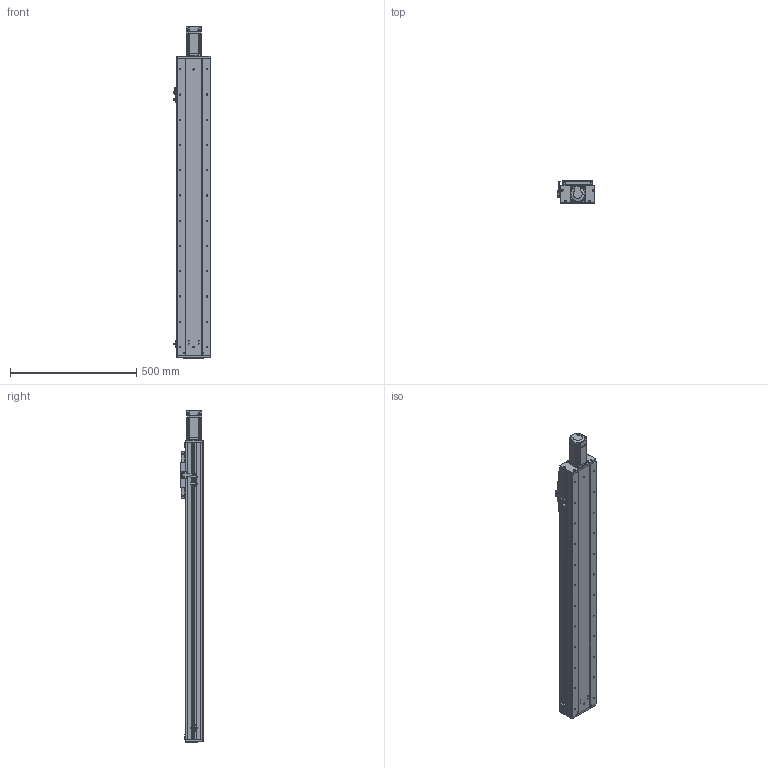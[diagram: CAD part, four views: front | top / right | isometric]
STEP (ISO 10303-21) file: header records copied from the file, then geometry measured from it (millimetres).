
FILE_DESCRIPTION (( 'STEP AP203' ), '1' );
FILE_NAME ('RY140F-L2020-300-MK.SLDASM_900.step', '2021-03-02T06:24:19', ( '盈信电脑' ), ( '东莞市道滘镇水果街19号' ), 'SwSTEP 2.0', 'SolidWorks 2012', '' );
FILE_SCHEMA (( 'CONFIG_CONTROL_DESIGN' ));
Length unit declared in the file: millimetre
Products named in the file (18): RY140F-L2020-300-MK.SLDASM_900; RY140F-詩湍揤え; 侐源滅袉蝶; RY140F-672覜茼んえ; 滅袉蝶18-10; RY140F-后盖板(铝件）; 侂狟400W侜督萇儂; 15; 覜茼ん672; RY140F-直连型材铝滑块(16丝杆); RY100F-詩湍揤踡謫; RY140F-直连前盖板(铝件）; RY140F-詩湍幗謫粣; RY140F-300-MK眻蟀詩湍_900; RY140F-300-MK眻蟀倰第奻裔啣_900; RY140F-滅鳥奻裔; RY140F-直连型材铝滑块连接座; RY140F-300-MK眻蟀倰第菁釱_900
Assembly tree (22 placements, depth 3):
  RY140F-L2020-300-MK.SLDASM_900
    RY140F-300-MK眻蟀倰第菁釱_900
    RY140F-300-MK眻蟀倰第奻裔啣_900  x2
    RY140F-300-MK眻蟀詩湍_900
    RY140F-直连型材铝滑块连接座
    RY140F-滅鳥奻裔
    RY140F-詩湍幗謫粣
    RY100F-詩湍揤踡謫
    RY140F-直连型材铝滑块(16丝杆)
    RY140F-直连前盖板(铝件）
    RY140F-后盖板(铝件）
    侂狟400W侜督萇儂
      15
    覜茼ん672  x3
    RY140F-672覜茼んえ
    RY140F-詩湍揤え  x2
    滅袉蝶18-10
    侐源滅袉蝶  x2
Bounding box: 148.7 x 91 x 1315.5 mm (x, y, z)
Volume: 4454696.3 mm3; surface area: 1545880.8 mm2
Topology: 21 solids, 21 shells, 1992 faces, 5477 edges, 3502 vertices
Faces by surface type: cylinder 914, plane 854, cone 202, bspline 18, torus 4
Entity records: 57750 total; most frequent: CARTESIAN_POINT 11547, DIRECTION 9448, ORIENTED_EDGE 9054, EDGE_CURVE 4527, AXIS2_PLACEMENT_3D 3391, VERTEX_POINT 2970, LINE 2666, VECTOR 2666
